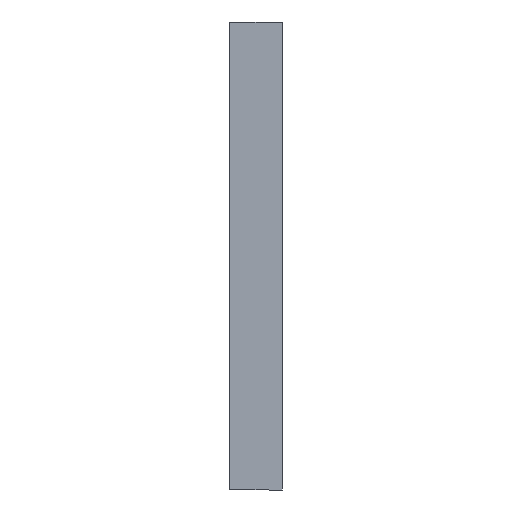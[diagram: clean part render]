
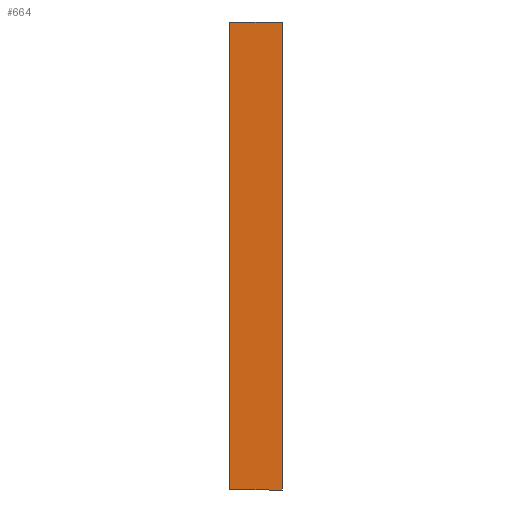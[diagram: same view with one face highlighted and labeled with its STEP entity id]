
A CAD part, front view. The second image highlights one B-rep face of the part: STEP entity #664.
In plain terms, the highlighted planar face has unit normal (0, -1, 0).
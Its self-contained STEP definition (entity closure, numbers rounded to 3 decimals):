
#38 = VECTOR ( 'NONE', #571, 1000. ) ;
#58 = VERTEX_POINT ( 'NONE', #1345 ) ;
#60 = DIRECTION ( 'NONE',  ( 0., 0., -1. ) ) ;
#130 = AXIS2_PLACEMENT_3D ( 'NONE', #700, #708, #60 ) ;
#302 = CARTESIAN_POINT ( 'NONE',  ( -11., -103., 98. ) ) ;
#311 = EDGE_LOOP ( 'NONE', ( #806, #1126, #984, #823 ) ) ;
#321 = LINE ( 'NONE', #1473, #898 ) ;
#360 = VERTEX_POINT ( 'NONE', #1294 ) ;
#398 = DIRECTION ( 'NONE',  ( -1., 0., 0. ) ) ;
#520 = EDGE_CURVE ( 'NONE', #661, #1418, #321, .T. ) ;
#571 = DIRECTION ( 'NONE',  ( 0., 0., -1. ) ) ;
#660 = DIRECTION ( 'NONE',  ( 1., 0., 0. ) ) ;
#661 = VERTEX_POINT ( 'NONE', #1065 ) ;
#664 = ADVANCED_FACE ( 'NONE', ( #692 ), #1571, .T. ) ;
#692 = FACE_OUTER_BOUND ( 'NONE', #311, .T. ) ;
#700 = CARTESIAN_POINT ( 'NONE',  ( -11., -103., 0. ) ) ;
#708 = DIRECTION ( 'NONE',  ( 0., -1., 0. ) ) ;
#806 = ORIENTED_EDGE ( 'NONE', *, *, #520, .T. ) ;
#823 = ORIENTED_EDGE ( 'NONE', *, *, #889, .F. ) ;
#850 = EDGE_CURVE ( 'NONE', #58, #1418, #1535, .T. ) ;
#873 = VECTOR ( 'NONE', #660, 1000. ) ;
#889 = EDGE_CURVE ( 'NONE', #661, #360, #1057, .T. ) ;
#898 = VECTOR ( 'NONE', #1337, 1000. ) ;
#945 = CARTESIAN_POINT ( 'NONE',  ( 0., -103., 0. ) ) ;
#984 = ORIENTED_EDGE ( 'NONE', *, *, #1558, .F. ) ;
#1055 = VECTOR ( 'NONE', #398, 1000. ) ;
#1057 = LINE ( 'NONE', #302, #873 ) ;
#1065 = CARTESIAN_POINT ( 'NONE',  ( -22., -103., 98. ) ) ;
#1126 = ORIENTED_EDGE ( 'NONE', *, *, #850, .F. ) ;
#1137 = CARTESIAN_POINT ( 'NONE',  ( -11., -103., -98. ) ) ;
#1294 = CARTESIAN_POINT ( 'NONE',  ( 0., -103., 98. ) ) ;
#1337 = DIRECTION ( 'NONE',  ( 0., 0., -1. ) ) ;
#1345 = CARTESIAN_POINT ( 'NONE',  ( 0., -103., -98. ) ) ;
#1418 = VERTEX_POINT ( 'NONE', #1533 ) ;
#1473 = CARTESIAN_POINT ( 'NONE',  ( -22., -103., 0. ) ) ;
#1477 = LINE ( 'NONE', #945, #38 ) ;
#1533 = CARTESIAN_POINT ( 'NONE',  ( -22., -103., -98. ) ) ;
#1535 = LINE ( 'NONE', #1137, #1055 ) ;
#1558 = EDGE_CURVE ( 'NONE', #360, #58, #1477, .T. ) ;
#1571 = PLANE ( 'NONE',  #130 ) ;
